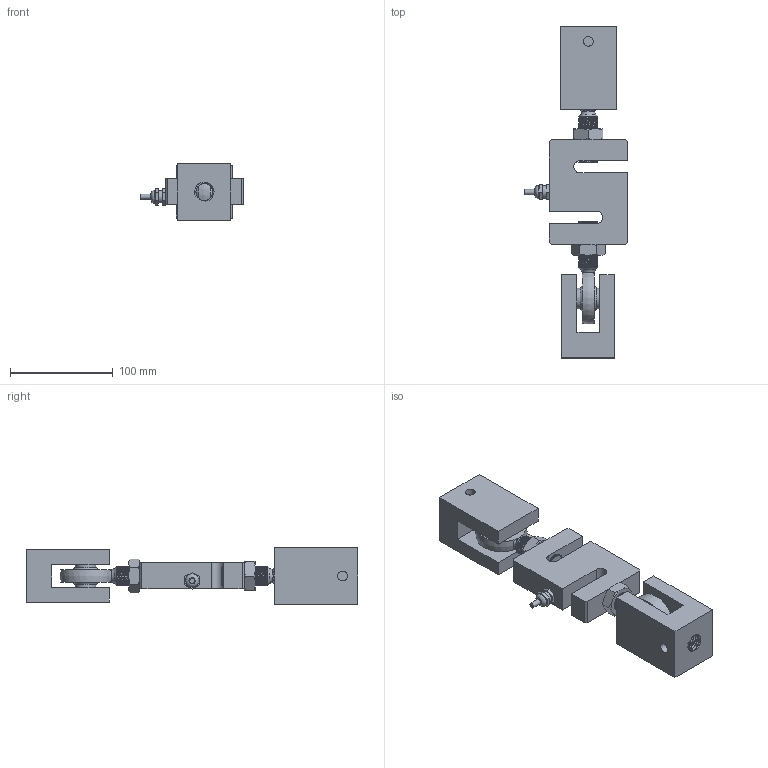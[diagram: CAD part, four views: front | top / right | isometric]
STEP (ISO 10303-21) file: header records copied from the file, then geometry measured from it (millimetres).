
FILE_DESCRIPTION(/* description */ (''),/* implementation_level */ '2;1');
FILE_NAME(/* name */ 'C:/Users/fardi/Dropbox/Work/Anyload/Load Cell Models/Product Catalog 3D/Weight Modules/101/101NHM2/101NHM2-5klb v2.step',/* time_stamp */ '2020-05-13T10:25:50-07:00',/* author */ (''),/* organization */ (''),/* preprocessor_version */ 'ST-DEVELOPER v18.1',/* originating_system */ 'Autodesk Translation Framework v9.3.0.1241',/* authorisation */ '');
FILE_SCHEMA (('AUTOMOTIVE_DESIGN { 1 0 10303 214 3 1 1 }'));
Products named in the file (9): 101NHM2-5klb; 101NH-(5-10)klb; Connector v1; Eye Bolt v2; 94846A540; End Block; Eye Bolt v2(Mirror); End Block(Mirror) (1); 94846A540(Mirror)
Assembly tree (8 placements, depth 3):
  101NHM2-5klb
    101NH-(5-10)klb
      Connector v1
    Eye Bolt v2
    94846A540
    End Block
    Eye Bolt v2(Mirror)
    End Block(Mirror) (1)
    94846A540(Mirror)
Bounding box: 100.13 x 323.43 x 55 mm (x, y, z)
Volume: 542187.5 mm3; surface area: 121267.4 mm2
Topology: 8 solids, 11 shells, 432 faces, 1162 edges, 753 vertices
Faces by surface type: cylinder 269, plane 92, cone 34, bspline 25, torus 6, sphere 6
Full cylindrical faces by diameter (mm): 5.1 x1, 9.525 x2, 10 x1, 12 x1, 13 x1, 16.573 x18, 16.988 x10, 17.12 x54, 17.501 x24, 18.893 x56, 19.05 x54, 20 x4, 26.6 x1, 27.2 x2, 29.4 x2
Entity records: 40079 total; most frequent: CARTESIAN_POINT 30208, ORIENTED_EDGE 2308, DIRECTION 1566, EDGE_CURVE 1154, VERTEX_POINT 753, AXIS2_PLACEMENT_3D 585, B_SPLINE_CURVE_WITH_KNOTS 523, EDGE_LOOP 465
